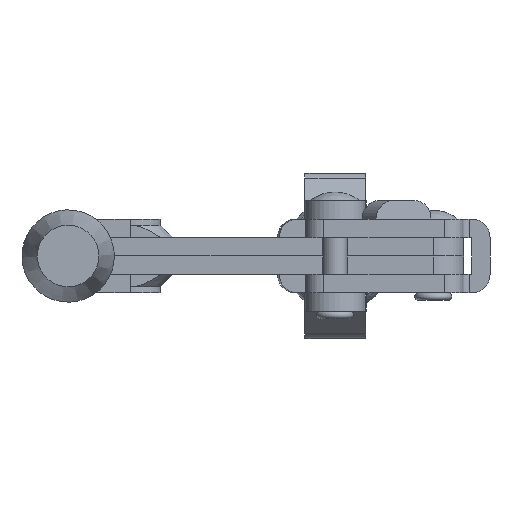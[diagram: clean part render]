
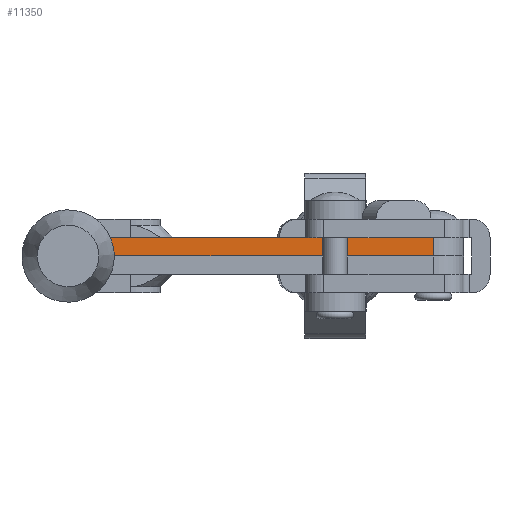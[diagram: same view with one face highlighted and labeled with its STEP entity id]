
A CAD part, front view. The second image highlights one B-rep face of the part: STEP entity #11350.
In plain terms, the highlighted planar face has unit normal (0, -1, 0).
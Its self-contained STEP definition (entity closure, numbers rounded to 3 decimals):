
#1012=PLANE('',#12445);
#1450=FACE_OUTER_BOUND('',#2123,.T.);
#2123=EDGE_LOOP('',(#9200,#9201,#9202,#9203));
#2873=LINE('',#28006,#3815);
#2915=LINE('',#28703,#3857);
#2918=LINE('',#28710,#3860);
#2919=LINE('',#28711,#3861);
#3815=VECTOR('',#14154,1000.);
#3857=VECTOR('',#14200,1000.);
#3860=VECTOR('',#14207,1000.);
#3861=VECTOR('',#14208,1000.);
#5196=VERTEX_POINT('',#28004);
#5197=VERTEX_POINT('',#28005);
#5271=VERTEX_POINT('',#28701);
#5272=VERTEX_POINT('',#28702);
#6607=EDGE_CURVE('',#5196,#5197,#2873,.T.);
#6682=EDGE_CURVE('',#5271,#5272,#2915,.T.);
#6686=EDGE_CURVE('',#5271,#5196,#2918,.T.);
#6687=EDGE_CURVE('',#5272,#5197,#2919,.T.);
#9200=ORIENTED_EDGE('',*,*,#6607,.F.);
#9201=ORIENTED_EDGE('',*,*,#6686,.F.);
#9202=ORIENTED_EDGE('',*,*,#6682,.T.);
#9203=ORIENTED_EDGE('',*,*,#6687,.T.);
#11350=ADVANCED_FACE('',(#1450),#1012,.F.);
#12445=AXIS2_PLACEMENT_3D('',#28709,#14205,#14206);
#14154=DIRECTION('',(1.,0.,0.));
#14200=DIRECTION('',(1.,0.,0.));
#14205=DIRECTION('center_axis',(0.,1.,0.));
#14206=DIRECTION('ref_axis',(0.,0.,-1.));
#14207=DIRECTION('',(0.,0.,1.));
#14208=DIRECTION('',(0.,0.,1.));
#28004=CARTESIAN_POINT('',(-55.3,-4.9,6.));
#28005=CARTESIAN_POINT('',(0.,-4.9,6.));
#28006=CARTESIAN_POINT('',(0.,-4.9,6.));
#28701=CARTESIAN_POINT('',(-55.3,-4.9,3.));
#28702=CARTESIAN_POINT('',(0.,-4.9,3.));
#28703=CARTESIAN_POINT('',(0.,-4.9,3.));
#28709=CARTESIAN_POINT('Origin',(0.,-4.9,3.));
#28710=CARTESIAN_POINT('',(-55.3,-4.9,3.));
#28711=CARTESIAN_POINT('',(0.,-4.9,3.));
